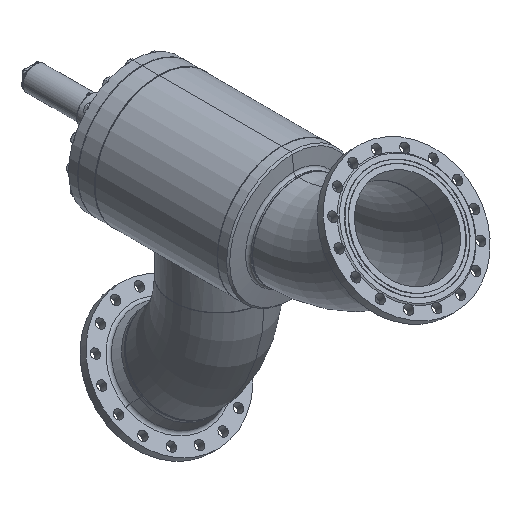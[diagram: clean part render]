
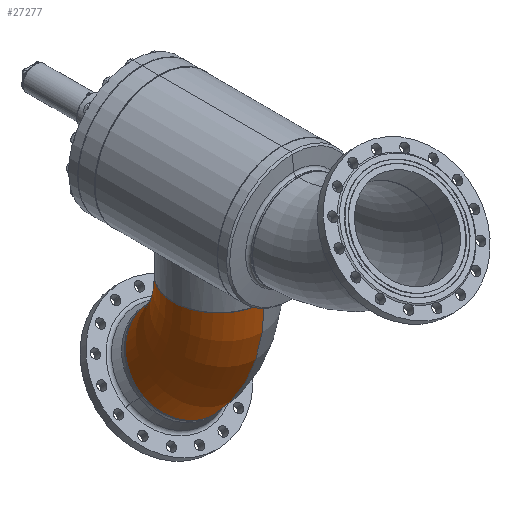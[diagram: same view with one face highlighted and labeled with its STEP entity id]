
A CAD part, isometric view. The second image highlights one B-rep face of the part: STEP entity #27277.
In plain terms, the highlighted toroidal (fillet/blend) face has major radius 457 mm and minor radius 161.95 mm.
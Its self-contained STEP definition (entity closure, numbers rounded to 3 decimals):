
#584 = VERTEX_POINT ( 'NONE', #7123 ) ;
#818 = VERTEX_POINT ( 'NONE', #7703 ) ;
#17345 = CARTESIAN_POINT ( 'NONE',  ( 0., 161.95, 0. ) ) ;
#18125 = CIRCLE ( 'NONE', #18126, 618.95 ) ;
#18126 = AXIS2_PLACEMENT_3D ( 'NONE', #18127, #18128, #18129 ) ;
#18127 = CARTESIAN_POINT ( 'NONE',  ( 0., -457., 0. ) ) ;
#18128 = DIRECTION ( 'NONE',  ( 0., 0., 1. ) ) ;
#18129 = DIRECTION ( 'NONE',  ( 1., 0., 0. ) ) ;
#2312 = CIRCLE ( 'NONE', #2313, 161.95 ) ;
#2313 = AXIS2_PLACEMENT_3D ( 'NONE', #2314, #2315, #2316 ) ;
#2314 = CARTESIAN_POINT ( 'NONE',  ( 323.148, -133.852, 0. ) ) ;
#2315 = DIRECTION ( 'NONE',  ( 0.707, -0.707, 0. ) ) ;
#2316 = DIRECTION ( 'NONE',  ( 0., 0., -1. ) ) ;
#4368 = CIRCLE ( 'NONE', #4369, 295.05 ) ;
#4369 = AXIS2_PLACEMENT_3D ( 'NONE', #4370, #4371, #4372 ) ;
#4370 = CARTESIAN_POINT ( 'NONE',  ( 0., -457., 0. ) ) ;
#4371 = DIRECTION ( 'NONE',  ( 0., 0., 1. ) ) ;
#4372 = DIRECTION ( 'NONE',  ( 1., 0., 0. ) ) ;
#21448 = EDGE_CURVE ( 'NONE', #28106, #29293, #24962, .T. ) ;
#5124 = FACE_OUTER_BOUND ( 'NONE', #26874, .T. ) ;
#5125 = TOROIDAL_SURFACE ( 'NONE', #5126, 457., 161.95 ) ;
#5126 = AXIS2_PLACEMENT_3D ( 'NONE', #5127, #5128, #5129 ) ;
#5127 = CARTESIAN_POINT ( 'NONE',  ( 0., -457., 0. ) ) ;
#5128 = DIRECTION ( 'NONE',  ( 0., 0., 1. ) ) ;
#5129 = DIRECTION ( 'NONE',  ( 1., 0., 0. ) ) ;
#22165 = ORIENTED_EDGE ( 'NONE', *, *, #21448, .T. ) ;
#23173 = ORIENTED_EDGE ( 'NONE', *, *, #8366, .T. ) ;
#7123 = CARTESIAN_POINT ( 'NONE',  ( 208.632, -248.368, 0. ) ) ;
#7703 = CARTESIAN_POINT ( 'NONE',  ( 437.664, -19.336, 0. ) ) ;
#24168 = EDGE_CURVE ( 'NONE', #584, #818, #2312, .T. ) ;
#8366 = EDGE_CURVE ( 'NONE', #584, #28106, #4368, .T. ) ;
#24887 = ORIENTED_EDGE ( 'NONE', *, *, #24168, .F. ) ;
#24962 = CIRCLE ( 'NONE', #24963, 161.95 ) ;
#24963 = AXIS2_PLACEMENT_3D ( 'NONE', #24984, #24985, #24986 ) ;
#24984 = CARTESIAN_POINT ( 'NONE',  ( 0., 0., 0. ) ) ;
#24985 = DIRECTION ( 'NONE',  ( 1., 0., 0. ) ) ;
#24986 = DIRECTION ( 'NONE',  ( 0., 0., -1. ) ) ;
#8963 = CARTESIAN_POINT ( 'NONE',  ( 0., -161.95, 0. ) ) ;
#25886 = ORIENTED_EDGE ( 'NONE', *, *, #29529, .F. ) ;
#26874 = EDGE_LOOP ( 'NONE', ( #25886, #24887, #23173, #22165 ) ) ;
#27277 = ADVANCED_FACE ( 'NONE', ( #5124 ), #5125, .T. ) ;
#28106 = VERTEX_POINT ( 'NONE', #8963 ) ;
#29293 = VERTEX_POINT ( 'NONE', #17345 ) ;
#29529 = EDGE_CURVE ( 'NONE', #818, #29293, #18125, .T. ) ;
